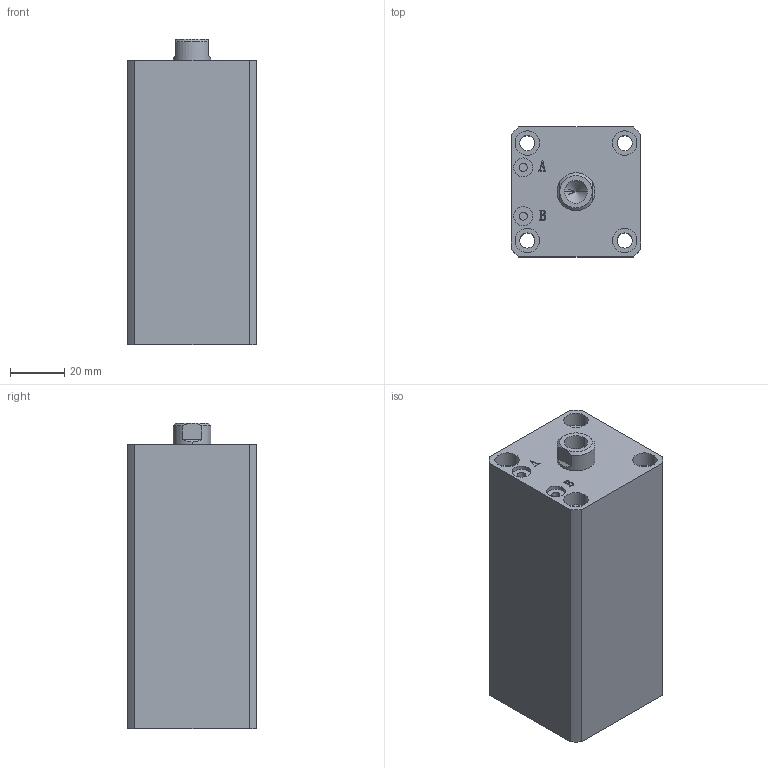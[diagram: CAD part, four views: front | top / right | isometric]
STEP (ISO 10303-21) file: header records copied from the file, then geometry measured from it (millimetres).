
FILE_DESCRIPTION (( 'STEP AP203' ), '1' );
FILE_NAME ('HTB-SDMA25-60N.STEP', '2019-10-07T10:56:31', ( '微软用户' ), ( '微软中国' ), 'SwSTEP 2.0', 'SolidWorks 2012', '' );
FILE_SCHEMA (( 'CONFIG_CONTROL_DESIGN' ));
Length unit declared in the file: millimetre
Products named in the file (3): HTB-SDMA25-60N; HTB-SDMA25-60N活塞杆; HTB-SDMA25-60掛极
Assembly tree (2 placements, depth 2):
  HTB-SDMA25-60N
    HTB-SDMA25-60掛极
    HTB-SDMA25-60N活塞杆
Bounding box: 48 x 48 x 113 mm (x, y, z)
Volume: 207847.3 mm3; surface area: 46090.5 mm2
Topology: 2 solids, 2 shells, 137 faces, 329 edges, 215 vertices
Faces by surface type: plane 65, cylinder 46, bspline 16, torus 6, cone 4
Entity records: 5072 total; most frequent: CARTESIAN_POINT 1592, ORIENTED_EDGE 654, DIRECTION 645, EDGE_CURVE 327, AXIS2_PLACEMENT_3D 232, VERTEX_POINT 215, LINE 181, VECTOR 181
